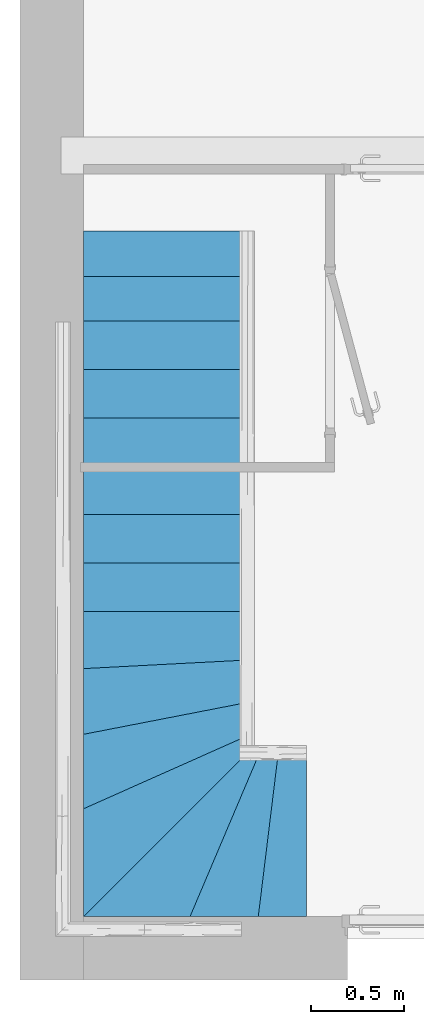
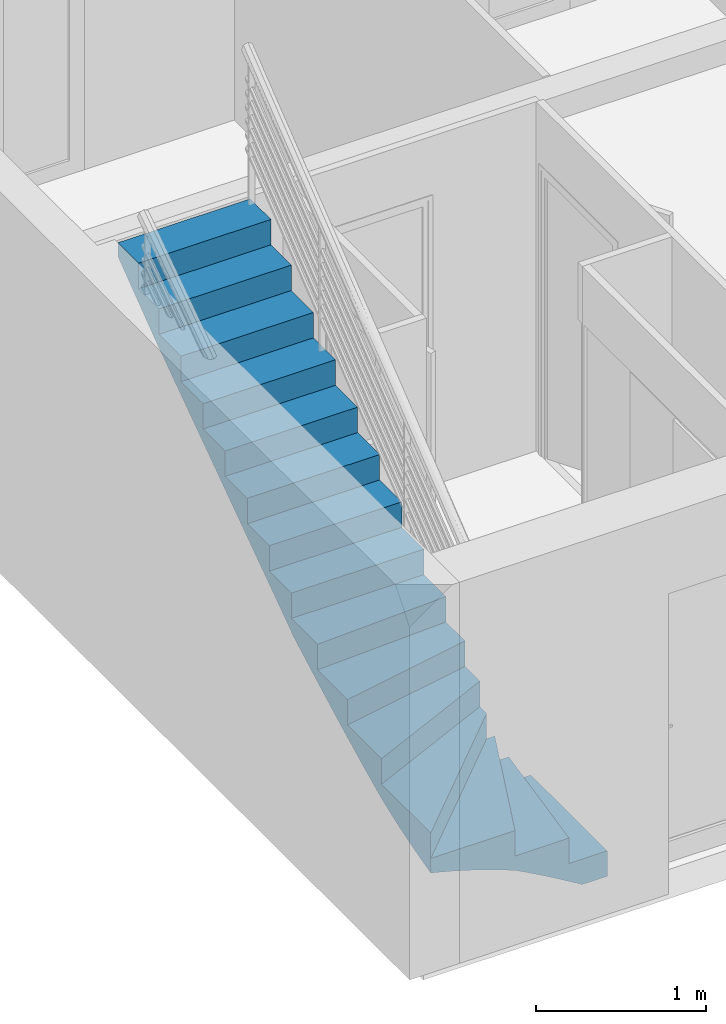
# One storey, part 3 of 13: 1 stair.
"""IFC2X3 building model written with IfcOpenShell, lengths in millimetres."""

from ifc_helpers import new_model, entity, si_unit, converted_unit, direction, frame, origin, origin_with_axes, place, context, project, spatial, faceted_brep, element, save


model = new_model("IFC2X3")

# Units and contexts
model_context = context("Model", 3, precision=1e-05, world=origin(), true_north=direction((0.0, 1.0, 0.0)))
ifc_project = project(units=[si_unit("LENGTHUNIT", "METRE", prefix="MILLI"), si_unit("AREAUNIT", "SQUARE_METRE"), si_unit("VOLUMEUNIT", "CUBIC_METRE"), converted_unit("PLANEANGLEUNIT", "DEGREE", entity("IfcPlaneAngleMeasure", 0.01745), si_unit("PLANEANGLEUNIT", "RADIAN"), dimensions=[0, 0, 0, 0, 0, 0, 0]), si_unit("SOLIDANGLEUNIT", "STERADIAN"), si_unit("MASSUNIT", "GRAM"), si_unit("TIMEUNIT", "SECOND"), si_unit("THERMODYNAMICTEMPERATUREUNIT", "DEGREE_CELSIUS"), si_unit("LUMINOUSINTENSITYUNIT", "LUMEN")], contexts=[model_context])

# Site, building, storey
placement = place(None, origin_with_axes())
site_placement = place(placement, frame((11636.08881703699, 2815.7442167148, 4.768371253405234e-06), z_axis=(0.0, 0.0, 1.0), x_axis=(1.0, 0.0, 0.0)))
site = spatial("IfcSite", under=ifc_project, at=site_placement, Name="Surface", CompositionType="ELEMENT")
building_placement = place(placement, origin_with_axes())
building = spatial("IfcBuilding", under=site, at=building_placement, Name="Default Building", CompositionType="ELEMENT")
storey_placement = place(building_placement, origin_with_axes())
storey = spatial("IfcBuildingStorey", under=building, at=storey_placement, Name="Rez de chaussée", CompositionType="ELEMENT", Elevation=0.0)

# Stair
stair_placement = place(storey_placement, frame((11636.08881703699, 2815.7442167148, 4.768371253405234e-06), z_axis=(0.0, 0.0, 1.0), x_axis=(1.0, 0.0, 0.0)))
element("IfcStair", 1, at=stair_placement, inside=storey, Name="IfcStair - Escalier:Monobloc", context=model_context, shape_type="Brep", body=[
    faceted_brep([(-11296.08884266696, 1208.089584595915, 2740.000004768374), (-10396.08880690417, 1208.089584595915, 2639.755601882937), (-11296.08884266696, 1208.089584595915, 2639.755601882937), (-10396.08880690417, 1208.089584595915, 2740.000004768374), (-10396.08880690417, 964.2558043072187, 2740.000004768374), (-11296.08884266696, 964.2558043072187, 2557.33334541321), (-10396.08880690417, 964.2558043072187, 2557.33334541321), (-11296.08884266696, 964.2558043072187, 2740.000004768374), (-10396.08880690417, 464.2558043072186, 2374.666686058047), (-11296.08884266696, 464.2558043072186, 2192.000026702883), (-10396.08880690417, 464.2558043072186, 2192.000026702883), (-11296.08884266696, 464.2558043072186, 2374.666686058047), (-10396.08880690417, 724.2557947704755, 2374.666686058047), (-11296.08884266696, 724.2557947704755, 2374.666686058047), (-10396.08880690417, 204.2557542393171, 2192.000026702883), (-11296.08884266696, 204.2557542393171, 2009.333307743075), (-10396.08880690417, 204.2557542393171, 2009.333307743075), (-11296.08884266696, 204.2557542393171, 2192.000026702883), (-10396.08880690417, -55.74423622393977, 2009.333307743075), (-11296.08884266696, -55.74423622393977, 1826.666678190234), (-10396.08880690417, -55.74423622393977, 1826.666678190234), (-11296.08884266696, -55.74423622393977, 2009.333307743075), (-10396.08880690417, -315.7442266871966, 1826.666678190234), (-11296.08884266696, -315.7442266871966, 1643.999989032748), (-10396.08880690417, -315.7442266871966, 1643.999989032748), (-11296.08884266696, -315.7442266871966, 1826.666678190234), (-10396.08880690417, -575.7442171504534, 1643.999989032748), (-11296.08884266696, -575.7442171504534, 1461.333329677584), (-10396.08880690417, -575.7442171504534, 1461.333329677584), (-11296.08884266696, -575.7442171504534, 1643.999989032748), (-10396.08880690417, -835.7442225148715, 1461.333329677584), (-11296.08884266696, -835.7442225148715, 1278.66667032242), (-10396.08880690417, -835.7442225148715, 1278.66667032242), (-11296.08884266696, -835.7442225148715, 1461.333329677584), (-10396.08880690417, -1095.744227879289, 1278.66667032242), (-11296.08884266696, -1142.911201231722, 1096.000010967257), (-10396.08880690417, -1095.744227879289, 1096.000010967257), (-11296.08884266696, -1142.911201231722, 1278.66667032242), (-10396.08880690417, -1321.143811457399, 1096.000010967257), (-11296.08884266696, -1496.086126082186, 913.3333218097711), (-10396.08880690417, -1321.143811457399, 913.3333218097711), (-11296.08884266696, -1496.086126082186, 1096.000010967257), (-10396.08880690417, -1495.744233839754, 913.3333218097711), (-11296.08884266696, -1896.450048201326, 730.6666922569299), (-10396.08880690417, -1495.744233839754, 730.6666922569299), (-11296.08884266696, -1896.450048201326, 913.3333218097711), (-10396.08880690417, -1555.384939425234, 450.9907317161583), (-10396.08880690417, -1575.744217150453, 730.6666922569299), (-10396.08880690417, -1575.744217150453, 409.318144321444), (-10396.08880690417, -1537.743633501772, 493.88074398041), (-10396.08880690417, -1522.230988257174, 537.5931215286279), (-10396.08880690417, -1508.358841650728, 581.860001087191), (-10396.08880690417, -1495.744233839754, 626.4702630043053), (-10396.08880690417, -1419.459527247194, 683.7156367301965), (-10396.08880690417, -1344.161873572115, 742.2222447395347), (-10396.08880690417, -1269.766753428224, 801.8454861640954), (-10396.08880690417, -1196.170931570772, 862.4364686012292), (-10396.08880690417, -1123.229538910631, 923.865730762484), (-10396.08880690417, -1050.855701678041, 985.9431338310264), (-10396.08880690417, -978.9127464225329, 1048.50995063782), (-10396.08880690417, -907.2586054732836, 1111.405189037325), (-10396.08880690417, -835.7442225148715, 1174.470270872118), (-10396.08880690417, -835.7442225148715, 1180.896441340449), (-10396.08880690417, 724.2557947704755, 2276.896471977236), (-10396.08880690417, 724.2557947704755, 2274.42228317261), (-10396.08880690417, 724.2557947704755, 2557.33334541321), (-11296.08884266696, -2475.74425291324, 547.9999732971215), (-10396.08880690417, -1575.744217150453, 547.9999732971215), (-11296.08884266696, -2475.74425291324, 730.6666922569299), (-11296.08884266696, -2475.74425291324, 443.5055804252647), (-11296.08884266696, -2328.427558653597, 481.0143661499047), (-11296.08884266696, -2401.922827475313, 461.6191935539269), (-11296.08884266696, -2255.299335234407, 501.7509412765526), (-11296.08884266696, -2182.578926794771, 523.8756489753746), (-11296.08884266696, -2110.304718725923, 547.4170398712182), (-11296.08884266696, -2038.509493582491, 572.3813724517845), (-11296.08884266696, -1967.2180468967, 598.7496924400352), (-11296.08884266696, -1896.450048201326, 626.4702630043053), (-11296.08884266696, -1776.193624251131, 682.6022815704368), (-11296.08884266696, -1656.711941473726, 740.3197836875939), (-11296.08884266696, -1537.955468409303, 799.4794201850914), (-11296.08884266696, -1419.852262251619, 859.9201393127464), (-11296.08884266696, -1302.291041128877, 921.474213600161), (-11296.08884266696, -1185.218876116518, 983.9200925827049), (-11296.08884266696, -1068.519865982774, 1047.048712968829), (-11296.08884266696, -952.0692284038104, 1110.641713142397), (-11296.08884266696, -835.7442225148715, 1174.470270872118), (-11296.08884266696, -835.7442225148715, 1180.896441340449), (-11296.08884266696, 724.2557947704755, 2276.896471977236), (-11296.08884266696, 724.2557947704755, 2274.42228317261), (-11296.08884266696, 724.2557947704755, 2557.33334541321), (-10340.93120507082, -1575.744217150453, 547.9999732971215), (-10722.95854053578, -2475.74425291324, 365.3333139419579), (-10340.93120507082, -1575.744217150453, 365.3333139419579), (-10722.95854053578, -2475.74425291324, 547.9999732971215), (-10246.08883074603, -1575.744217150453, 365.3333139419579), (-10356.08881524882, -2475.74425291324, 182.6666545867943), (-10246.08883074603, -1575.744217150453, 182.6666545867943), (-10356.08881524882, -2475.74425291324, 365.3333139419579), (-10375.5564074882, -1575.744217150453, 360.7431602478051), (-10303.55971864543, -1575.744217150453, 210.0353193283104), (-10267.19775608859, -1575.744217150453, 158.2517576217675), (-10340.93120507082, -1575.744217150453, 261.1368846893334), (-10357.36465267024, -1575.744217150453, 311.2373304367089), (-10196.79689220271, -1575.744217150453, 53.11440944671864), (-10096.08879498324, -1575.744217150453, -4.76836925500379e-06), (-10162.41827420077, -1575.744217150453, -4.76836925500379e-06), (-10231.66656307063, -1575.744217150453, 105.9032630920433), (-10096.08879498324, -1575.744217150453, 182.6666545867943), (-10096.08879498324, -2475.74425291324, -4.76836925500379e-06), (-10096.08879498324, -2475.74425291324, 182.6666545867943), (-10330.26635459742, -2475.74425291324, 38.92504692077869), (-10265.91190508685, -2475.74425291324, -4.76836925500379e-06), (-10394.85108665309, -2475.74425291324, 77.46541023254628), (-10459.72117594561, -2475.74425291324, 115.5223798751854), (-10524.92621353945, -2475.74425291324, 153.0016613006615), (-10590.50915203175, -2475.74425291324, 189.815278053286), (-10656.50544501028, -2475.74425291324, 225.8821678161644), (-10722.95854053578, -2475.74425291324, 261.1368846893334), (-10793.02308521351, -2475.74425291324, 288.527960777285), (-10863.59077504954, -2475.74425291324, 314.6580410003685), (-10934.63480285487, -2475.74425291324, 339.4648981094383), (-11006.13593868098, -2475.74425291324, 362.9218292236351), (-11078.06670478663, -2475.74425291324, 385.0263905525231), (-11150.39375237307, -2475.74425291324, 405.798013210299), (-11223.08030537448, -2475.74425291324, 425.2740693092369), (-10395.65300754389, -1704.660778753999, 261.1368846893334), (-10416.03055409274, -1884.654527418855, 211.2699699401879), (-10368.29212120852, -1640.202527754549, 261.1368846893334), (-10343.06713751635, -1801.187163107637, 167.5975275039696), (-10416.2425678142, -2032.085901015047, 169.2796897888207), (-10308.97533706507, -2010.347371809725, 84.60747718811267), (-10393.91729048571, -2218.225842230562, 113.835806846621), (-10242.91321448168, -2275.744205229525, -4.76836925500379e-06), (-10323.99380019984, -2240.689640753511, 60.9984350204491), (-10510.94864121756, -2147.30883192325, 211.2995338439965), (-10450.37482491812, -1833.577280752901, 261.1368846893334), (-10505.09664229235, -1962.493782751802, 261.1368846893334), (-10423.01392368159, -1769.11902975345, 261.1368846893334), (-10219.91458348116, -2075.744276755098, -4.76836925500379e-06), (-10231.41389898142, -2175.744181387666, -4.76836925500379e-06), (-10668.49306411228, -2347.431545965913, 261.1368846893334), (-10641.26032776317, -2283.275252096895, 261.1368846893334), (-10695.72580241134, -2411.587959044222, 261.1368846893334), (-10532.32937864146, -2026.650076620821, 261.1368846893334), (-10559.56211499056, -2090.80637048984, 261.1368846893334), (-10586.79485133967, -2154.962664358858, 261.1368846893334), (-10614.02758768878, -2219.118958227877, 261.1368846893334), (-10196.91601208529, -1875.744229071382, -4.76836925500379e-06), (-10208.41529778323, -1975.74425291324, -4.76836925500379e-06), (-10185.416785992, -1775.744205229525, -4.76836925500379e-06), (-10173.91750029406, -1675.744181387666, -4.76836925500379e-06), (-10254.41255978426, -2375.744229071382, -4.76836925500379e-06), (-10859.04072038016, -1567.143564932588, 703.989500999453), (-10842.27019361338, -974.080299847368, 1080.788667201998), (-10846.08882478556, -835.7442225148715, 1174.470270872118), (-10856.55303112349, -1173.142915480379, 949.5200467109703), (-10904.96393851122, -1078.901952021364, 1015.502954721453), (-10933.11731330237, -1285.74979852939, 887.6259577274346), (-10858.81642810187, -1368.820493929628, 824.5233845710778), (-10949.01519826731, -1493.898754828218, 765.3075408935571), (-10630.76542875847, -1600.228970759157, 626.4702630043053), (-10474.3143599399, -1530.572479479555, 626.4702630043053), (-10865.44203571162, -1704.71370767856, 626.4702630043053), (-11021.89311198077, -1774.370198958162, 626.4702630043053), (-10787.21649757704, -1669.885521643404, 626.4702630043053), (-10708.99096223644, -1635.057216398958, 626.4702630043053), (-11230.76543024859, -1867.366200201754, 626.4702630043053), (-11165.44204763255, -1838.282352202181, 626.4702630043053), (-11100.11863521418, -1809.198504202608, 626.4702630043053), (-10919.19369808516, -1990.657811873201, 484.8605346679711), (-11064.91851619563, -2118.984823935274, 483.7377023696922), (-11089.62562493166, -2051.079397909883, 516.4710831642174), (-11161.4508014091, -2228.663092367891, 475.4617166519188), (-10642.99252069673, -1668.375497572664, 559.8619532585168), (-10643.449096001, -1730.545049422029, 503.6470842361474), (-10773.98345432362, -1775.900011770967, 541.460568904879), (-10740.32535216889, -1834.130769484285, 486.6249513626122), (-10904.31013516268, -1893.304234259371, 525.8585762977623), (-10980.48808983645, -2126.901751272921, 453.0819010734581), (-10820.94877026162, -2287.238841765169, 341.5781211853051), (-10939.08460251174, -2255.140071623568, 396.4598131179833), (-10822.3767559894, -2168.780809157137, 376.6806674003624), (-10684.02191716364, -2145.666485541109, 317.6470947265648), (-10719.11059691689, -2040.124064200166, 372.5734305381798), (-10739.83167297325, -2309.080725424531, 301.4856529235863), (-10847.99763373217, -2097.690110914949, 412.3560142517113), (-10719.2413974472, -1954.245692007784, 409.6244525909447), (-10639.45965281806, -1817.545061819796, 436.3062334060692), (-10807.99514613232, -1972.899323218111, 446.0591626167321), (-10514.298705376, -1746.618157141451, 382.3282074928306), (-10619.04557607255, -1892.153745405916, 378.1617236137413), (-10622.59361705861, -1975.788002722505, 341.4580774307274), (-10564.78687933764, -1972.633605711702, 302.9060316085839), (-10533.30537489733, -1631.829088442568, 517.5276947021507), (-10554.43563870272, -1686.592703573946, 475.2955985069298), (-10436.30206397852, -1698.257928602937, 327.7114582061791), (-10506.42505101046, -1583.687012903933, 559.6771788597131), (-10508.36975685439, -1683.157091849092, 433.0083084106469), (-11161.57552412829, -1950.06704878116, 576.3857316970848), (-11020.12967876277, -1871.863847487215, 574.8349976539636), (-10580.99087885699, -1604.595309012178, 591.1446166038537), (-11103.56083325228, -2298.268204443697, 438.1080222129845), (-10802.76397428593, -1734.443431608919, 583.051021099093), (-10522.93407729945, -1835.585003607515, 331.9845151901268), (-10943.66757384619, -1739.542012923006, 626.4702630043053), (-10462.95572630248, -1789.01124548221, 297.8298616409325), (-10477.73572615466, -1898.035531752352, 261.1368846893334), (-10552.53989807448, -1565.400725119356, 626.4702630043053)], [[[0, 1, 2]], [[0, 3, 1]], [[4, 5, 6]], [[4, 7, 5]], [[8, 9, 10]], [[8, 11, 9]], [[12, 11, 8]], [[12, 13, 11]], [[14, 15, 16]], [[14, 17, 15]], [[10, 17, 14]], [[10, 9, 17]], [[18, 19, 20]], [[18, 21, 19]], [[16, 21, 18]], [[16, 15, 21]], [[22, 23, 24]], [[22, 25, 23]], [[20, 25, 22]], [[20, 19, 25]], [[26, 27, 28]], [[26, 29, 27]], [[24, 29, 26]], [[24, 23, 29]], [[30, 31, 32]], [[30, 33, 31]], [[28, 33, 30]], [[28, 27, 33]], [[34, 35, 36]], [[34, 37, 35]], [[32, 37, 34]], [[32, 31, 37]], [[38, 39, 40]], [[38, 41, 39]], [[36, 41, 38]], [[36, 35, 41]], [[42, 43, 44]], [[42, 45, 43]], [[42, 39, 45]], [[42, 40, 39]], [[46, 47, 48]], [[49, 47, 46]], [[50, 47, 49]], [[51, 47, 50]], [[52, 47, 51]], [[52, 44, 47]], [[44, 52, 53]], [[53, 42, 44]], [[54, 42, 53]], [[54, 40, 42]], [[55, 40, 54]], [[55, 38, 40]], [[56, 38, 55]], [[57, 38, 56]], [[57, 36, 38]], [[58, 36, 57]], [[58, 34, 36]], [[59, 34, 58]], [[60, 34, 59]], [[61, 34, 60]], [[62, 34, 61]], [[62, 32, 34]], [[32, 28, 30]], [[62, 28, 32]], [[28, 24, 26]], [[62, 24, 28]], [[24, 20, 22]], [[62, 20, 24]], [[20, 16, 18]], [[62, 16, 20]], [[16, 10, 14]], [[62, 10, 16]], [[63, 10, 62]], [[63, 8, 10]], [[8, 63, 12]], [[64, 6, 65]], [[1, 6, 64]], [[1, 4, 6]], [[4, 1, 3]], [[47, 66, 67]], [[47, 68, 66]], [[69, 70, 71]], [[69, 72, 70]], [[69, 73, 72]], [[69, 74, 73]], [[66, 74, 69]], [[66, 75, 74]], [[66, 76, 75]], [[66, 77, 76]], [[66, 78, 77]], [[68, 78, 66]], [[43, 78, 68]], [[43, 79, 78]], [[43, 80, 79]], [[43, 81, 80]], [[45, 81, 43]], [[39, 81, 45]], [[39, 82, 81]], [[39, 83, 82]], [[39, 84, 83]], [[41, 84, 39]], [[35, 84, 41]], [[35, 85, 84]], [[35, 86, 85]], [[35, 87, 86]], [[37, 87, 35]], [[31, 87, 37]], [[27, 31, 33]], [[27, 87, 31]], [[23, 27, 29]], [[23, 87, 27]], [[19, 23, 25]], [[19, 87, 23]], [[15, 19, 21]], [[15, 87, 19]], [[9, 15, 17]], [[9, 87, 15]], [[9, 88, 87]], [[88, 9, 11]], [[13, 88, 11]], [[5, 89, 90]], [[5, 2, 89]], [[7, 2, 5]], [[2, 7, 0]], [[47, 43, 68]], [[47, 44, 43]], [[91, 92, 93]], [[91, 94, 92]], [[95, 96, 97]], [[95, 98, 96]], [[48, 93, 99]], [[67, 93, 48]], [[93, 67, 91]], [[100, 97, 101]], [[102, 97, 100]], [[103, 97, 102]], [[99, 97, 103]], [[93, 97, 99]], [[97, 93, 95]], [[104, 105, 106]], [[107, 105, 104]], [[101, 105, 107]], [[97, 105, 101]], [[105, 97, 108]], [[108, 109, 105]], [[108, 110, 109]], [[109, 111, 112]], [[109, 113, 111]], [[109, 114, 113]], [[109, 115, 114]], [[110, 115, 109]], [[96, 115, 110]], [[96, 116, 115]], [[96, 117, 116]], [[96, 118, 117]], [[96, 119, 118]], [[96, 120, 119]], [[96, 121, 120]], [[96, 122, 121]], [[98, 122, 96]], [[92, 122, 98]], [[92, 123, 122]], [[92, 124, 123]], [[92, 125, 124]], [[92, 69, 125]], [[94, 69, 92]], [[69, 94, 66]], [[65, 13, 12]], [[65, 90, 13]], [[89, 63, 88]], [[89, 64, 63]], [[89, 1, 64]], [[89, 2, 1]], [[126, 100, 127]], [[128, 100, 126]], [[128, 102, 100]], [[129, 101, 107]], [[130, 131, 132]], [[133, 111, 134]], [[130, 127, 129]], [[127, 130, 135]], [[115, 135, 130]], [[136, 127, 137]], [[138, 127, 136]], [[127, 138, 126]], [[115, 132, 114]], [[129, 100, 101]], [[130, 129, 131]], [[107, 131, 129]], [[139, 140, 134]], [[117, 141, 142]], [[117, 143, 141]], [[143, 117, 118]], [[135, 116, 117]], [[135, 144, 137]], [[135, 145, 144]], [[135, 146, 145]], [[135, 147, 146]], [[147, 135, 142]], [[137, 127, 135]], [[134, 131, 139]], [[142, 135, 117]], [[115, 116, 135]], [[131, 148, 149]], [[104, 131, 107]], [[132, 134, 113]], [[104, 148, 131]], [[139, 131, 149]], [[150, 104, 151]], [[106, 151, 104]], [[150, 148, 104]], [[115, 130, 132]], [[134, 140, 133]], [[113, 114, 132]], [[100, 129, 127]], [[132, 131, 134]], [[152, 112, 111]], [[134, 111, 113]], [[111, 133, 152]], [[105, 151, 106]], [[105, 150, 151]], [[105, 148, 150]], [[105, 149, 148]], [[105, 139, 149]], [[105, 140, 139]], [[105, 133, 140]], [[105, 152, 133]], [[109, 152, 105]], [[152, 109, 112]], [[3, 7, 4]], [[3, 0, 7]], [[6, 90, 65]], [[6, 5, 90]], [[66, 91, 67]], [[66, 94, 91]], [[92, 95, 93]], [[92, 98, 95]], [[97, 110, 108]], [[97, 96, 110]], [[87, 63, 62]], [[87, 88, 63]], [[54, 53, 153]], [[154, 155, 60]], [[60, 59, 154]], [[156, 157, 58]], [[58, 57, 156]], [[158, 56, 159]], [[159, 56, 55]], [[54, 153, 160]], [[82, 83, 156]], [[85, 154, 84]], [[79, 160, 153]], [[86, 155, 85]], [[81, 158, 159]], [[157, 84, 154]], [[80, 81, 159]], [[83, 157, 156]], [[61, 60, 155]], [[158, 82, 156]], [[57, 56, 158]], [[160, 80, 159]], [[78, 79, 153]], [[53, 161, 153]], [[157, 154, 59]], [[83, 84, 157]], [[160, 159, 55]], [[162, 53, 52]], [[53, 162, 161]], [[79, 80, 160]], [[55, 54, 160]], [[58, 157, 59]], [[153, 163, 164]], [[153, 165, 163]], [[153, 166, 165]], [[166, 153, 161]], [[164, 78, 153]], [[81, 82, 158]], [[158, 156, 57]], [[78, 167, 77]], [[78, 168, 167]], [[78, 169, 168]], [[169, 78, 164]], [[85, 155, 154]], [[155, 62, 61]], [[155, 87, 62]], [[87, 155, 86]], [[170, 171, 172]], [[173, 172, 171]], [[174, 175, 176]], [[177, 176, 175]], [[177, 170, 178]], [[170, 179, 171]], [[180, 181, 182]], [[183, 182, 184]], [[185, 183, 147]], [[180, 183, 185]], [[179, 186, 181]], [[184, 186, 187]], [[188, 187, 189]], [[184, 182, 186]], [[188, 190, 191]], [[187, 191, 184]], [[192, 184, 191]], [[183, 192, 193]], [[177, 178, 176]], [[175, 174, 194]], [[170, 189, 179]], [[188, 191, 187]], [[175, 195, 177]], [[99, 103, 196]], [[71, 125, 69]], [[197, 194, 174]], [[198, 190, 188]], [[189, 177, 188]], [[172, 199, 200]], [[162, 51, 201]], [[122, 180, 121]], [[181, 202, 179]], [[162, 52, 51]], [[203, 174, 176]], [[203, 201, 174]], [[166, 201, 203]], [[194, 49, 195]], [[178, 172, 200]], [[71, 202, 125]], [[199, 76, 167]], [[174, 201, 197]], [[46, 195, 49]], [[172, 74, 199]], [[46, 48, 198]], [[190, 196, 204]], [[75, 76, 199]], [[198, 195, 46]], [[200, 199, 169]], [[190, 204, 191]], [[168, 199, 167]], [[168, 169, 199]], [[124, 202, 123]], [[169, 205, 200]], [[76, 77, 167]], [[178, 200, 176]], [[177, 195, 188]], [[73, 74, 172]], [[182, 181, 186]], [[199, 74, 75]], [[71, 173, 202]], [[186, 189, 187]], [[205, 203, 200]], [[70, 72, 173]], [[172, 173, 73]], [[196, 206, 204]], [[203, 176, 200]], [[51, 197, 201]], [[173, 71, 70]], [[197, 51, 50]], [[171, 179, 173]], [[177, 189, 170]], [[183, 180, 182]], [[103, 206, 196]], [[193, 145, 183]], [[122, 123, 181]], [[193, 204, 206]], [[147, 183, 145]], [[186, 179, 189]], [[192, 183, 184]], [[204, 192, 191]], [[207, 193, 206]], [[195, 198, 188]], [[194, 197, 50]], [[103, 128, 126]], [[103, 102, 128]], [[161, 201, 166]], [[208, 201, 161]], [[201, 208, 162]], [[179, 202, 173]], [[206, 136, 207]], [[206, 138, 136]], [[138, 206, 126]], [[125, 202, 124]], [[190, 198, 48]], [[173, 72, 73]], [[190, 99, 196]], [[204, 193, 192]], [[170, 172, 178]], [[175, 194, 195]], [[123, 202, 181]], [[48, 99, 190]], [[126, 206, 103]], [[185, 141, 143]], [[185, 142, 141]], [[142, 185, 147]], [[180, 185, 120]], [[121, 180, 120]], [[185, 119, 120]], [[181, 180, 122]], [[203, 165, 166]], [[203, 163, 165]], [[163, 203, 205]], [[144, 193, 207]], [[193, 144, 145]], [[119, 185, 143]], [[49, 194, 50]], [[118, 119, 143]]]),
])

save(model, "model.ifc")
